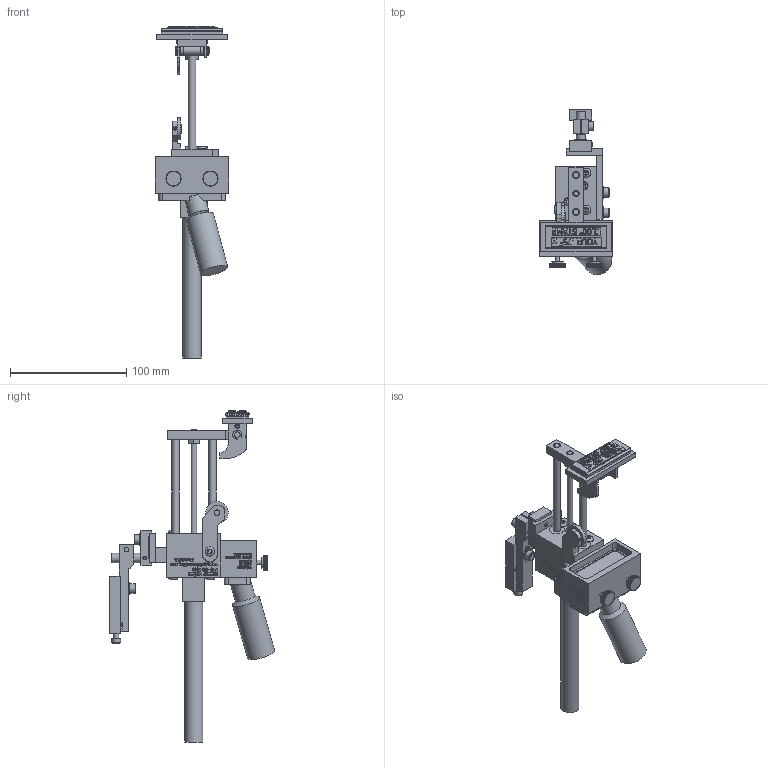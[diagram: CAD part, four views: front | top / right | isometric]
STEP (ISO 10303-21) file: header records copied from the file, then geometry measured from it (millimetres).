
FILE_DESCRIPTION((''),'2;1');
FILE_NAME('C:\Documents and Settings\Ron\My Documents\Inventor\Sprinter Drawing\Machines in Inventor\Model 616\Type\Ext Str\E1\Brkt\Ext\Model 616 ES1 ext w brkt mod 2012.stp','2012-03-16T15:00:44',('Ron'),(''),'Autodesk Inventor 2011','Autodesk Inventor 2011','');
FILE_SCHEMA(('AUTOMOTIVE_DESIGN { 1 0 10303 214 1 1 1 1 }'));
Length unit declared in the file: inch
Products named in the file (44): Model 616 ES1 ext  w brkt mod 2012; 616 Frame Body; 66 Linear Bearing; Hexagon Socket Button Head Cap Screw - Inch 8 - 32 x 1/4; Hexagon Socket Head Cap Screw - Inch No. 8 - 32 UNC - 1 1/4; 616  Wheel Bractet Assy (prototype); 44 Wheel Retainer; 44 Cam Wheel; 88 Wheel Bracket Arm (prototype); Hexagon Socket Set Screw - Flat Point - Inch 4-48 UNF x 0.19; 8-32x0.25 Hexagon Socket Button Head Cap Screw ANSI/ASME B18.3; Model 616 STD Reservoir assy; 616 RESERVOIR; 66 INK BOTTLE; 616 Ink Pad; 10 Ink Resevior Lock Screw; Model 616 Mounting Bracket assy; rpb4; rpb3; rpb-1; rpb2; No. 10-24x0.88 Hexagon socket head cap screw ANSI/ASME B18.3; Type B - Plain Washer (Inch) No. 10 - narrow - Type B; 66 Machine Mounting Pivot Bracket; Pin - Hardened Ground Machine Dowel (Inch) 1/8 x 3/4; Pin - Hardened Ground Machine Dowel (Inch) 1/8 x 3/8; Model 616 Rod Carrier ES 1 Extended Assy; 66 Rod Carrier; 44 & up Removable Marking Head Securing Post; Type A - Hexagon Socket Set Screw - Cup Point - Inch 8-32 UNC x 0.32; 66 PIVOT SHAFT; 66 PIVOT SHAFT LOCKING RING; 23 66 invert block; 616 Marking Head Plate; AS 1112 (4)  - Metric M6; 19 Rod Carrier Set Screws; 66 Spring; Hexagon Socket Flat Countersunk Head Cap Screw - Inch 6-32 UNC x 0.25; 616 baselock (sized); Model 66, E1 .25 x 5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
Assembly tree (58 placements, depth 3):
  Model 616 ES1 ext  w brkt mod 2012
    616 Frame Body
    66 Linear Bearing
    Hexagon Socket Button Head Cap Screw - Inch 8 - 32 x 1/4  x4
    Hexagon Socket Head Cap Screw - Inch No. 8 - 32 UNC - 1 1/4  x2
    616  Wheel Bractet Assy (prototype)
      44 Wheel Retainer
      44 Cam Wheel
      88 Wheel Bracket Arm (prototype)
      Hexagon Socket Set Screw - Flat Point - Inch 4-48 UNF x 0.19
    8-32x0.25 Hexagon Socket Button Head Cap Screw ANSI/ASME B18.3
    Model 616 STD Reservoir assy
      616 RESERVOIR
      66 INK BOTTLE
      616 Ink Pad
    10 Ink Resevior Lock Screw  x2
    Model 616 Mounting Bracket assy
      rpb4
      rpb3
      rpb-1
      rpb2
      No. 10-24x0.88 Hexagon socket head cap screw ANSI/ASME B18.3  x5
      Type B - Plain Washer (Inch) No. 10 - narrow - Type B  x4
      66 Machine Mounting Pivot Bracket
      Pin - Hardened Ground Machine Dowel (Inch) 1/8 x 3/4
      Pin - Hardened Ground Machine Dowel (Inch) 1/8 x 3/8
    Model 616 Rod Carrier ES 1 Extended Assy
      66 Rod Carrier
      44 & up Removable Marking Head Securing Post
      Type A - Hexagon Socket Set Screw - Cup Point - Inch 8-32 UNC x 0.32
      66 PIVOT SHAFT
      66 PIVOT SHAFT LOCKING RING  x2
      23 66 invert block
      616 Marking Head Plate
      AS 1112 (4)  - Metric M6
      19 Rod Carrier Set Screws  x2
      66 Spring
      Hexagon Socket Flat Countersunk Head Cap Screw - Inch 6-32 UNC x 0.25
      616 baselock (sized)
      Model 66, E1 .25 x 5  x2
      Hexagon Socket Set Screw - Flat Point - Inch 8-32 UNC x 0.32
      616 baselock STAMP
    E1 Extended
    10-32 PORTS DECAL
Bounding box: 63.5 x 141.96 x 285.06 mm (x, y, z)
Volume: 239098.2 mm3; surface area: 113982.1 mm2
Topology: 428 solids, 428 shells, 6557 faces, 16096 edges, 9983 vertices
Faces by surface type: plane 4543, bspline 1343, cylinder 571, cone 77, torus 23
Full cylindrical faces by diameter (mm): 1.575 x1, 2.261 x1, 2.54 x2, 2.642 x1, 2.845 x1, 3.175 x4, 3.2 x1, 3.302 x14, 3.505 x1, 3.556 x1, 3.962 x12, 4.064 x2, 4.166 x11, 4.496 x1, 4.521 x1, 4.699 x3, 4.75 x4, 4.775 x2, 4.826 x8, 4.864 x2, 4.917 x1, 5.08 x1, 5.156 x7, 5.359 x1, 5.556 x1, 6.325 x2, 6.35 x7, 6.426 x1, 6.604 x1, 6.68 x1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
Entity records: 157221 total; most frequent: CARTESIAN_POINT 46614, ORIENTED_EDGE 24640, DIRECTION 17779, EDGE_CURVE 12320, VECTOR 8781, LINE 8781, VERTEX_POINT 7926, EDGE_LOOP 5522
